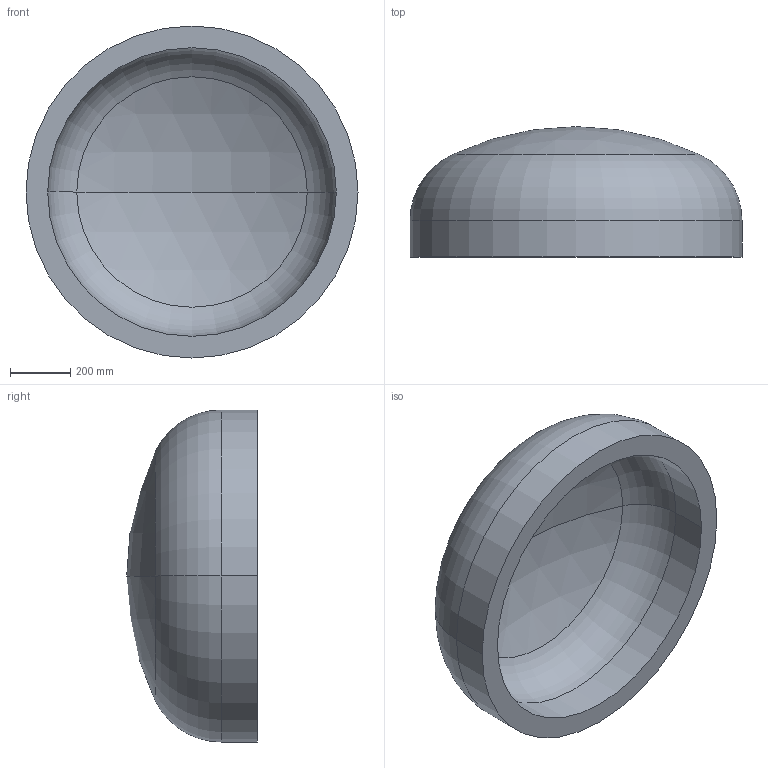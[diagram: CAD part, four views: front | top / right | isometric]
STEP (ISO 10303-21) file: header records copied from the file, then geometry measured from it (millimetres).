
FILE_DESCRIPTION (( 'STEP AP203' ), '1' );
FILE_NAME ('DIN 28013 Korbbogenform_-_Boden DIN 28013 - 1100 x 120 - I - s=72.step', '2016-07-01T09:12:32', ( '' ), ( '' ), 'SwSTEP 2.0', 'SolidWorks 2013', '' );
FILE_SCHEMA (( 'CONFIG_CONTROL_DESIGN' ));
Length unit declared in the file: millimetre
Products named in the file (1): DIN 28013 Korbbogenform_-_Boden DIN 28013 - 1100 x 120 - I - s=72
Bounding box: 1100 x 432.28 x 1100 mm (x, y, z)
Volume: 115178899.8 mm3; surface area: 3442798.7 mm2
Topology: 1 solids, 1 shells, 13 faces, 24 edges, 14 vertices
Faces by surface type: torus 4, cylinder 4, sphere 4, plane 1
Entity records: 407 total; most frequent: DIRECTION 72, CARTESIAN_POINT 52, ORIENTED_EDGE 48, AXIS2_PLACEMENT_3D 34, EDGE_CURVE 24, CIRCLE 20, EDGE_LOOP 14, VERTEX_POINT 14
